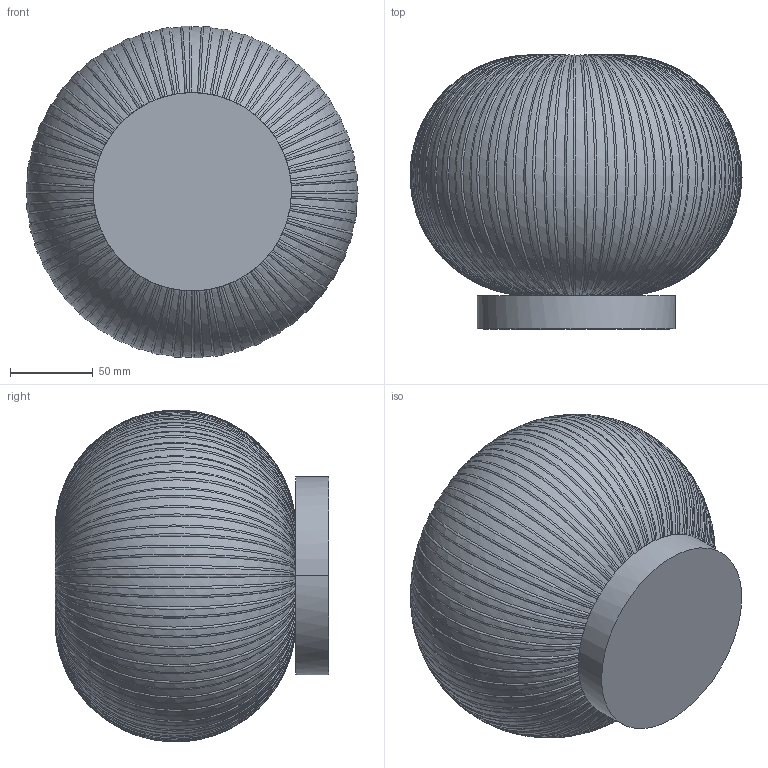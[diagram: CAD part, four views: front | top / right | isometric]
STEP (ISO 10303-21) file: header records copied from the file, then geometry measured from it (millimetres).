
FILE_DESCRIPTION (( 'STEP AP214' ), '1' );
FILE_NAME ('A1353.STEP', '2025-12-17T12:16:53', ( '' ), ( '' ), 'SwSTEP 2.0', 'SolidWorks 2023', '' );
FILE_SCHEMA (( 'AUTOMOTIVE_DESIGN' ));
Length unit declared in the file: millimetre
Products named in the file (3): A1353; Bola; Ar1_4_V02
Assembly tree (2 placements, depth 2):
  A1353
    Ar1_4_V02
    Bola
Bounding box: 200.97 x 165.85 x 200.97 mm (x, y, z)
Volume: 2603693.7 mm3; surface area: 193462.9 mm2
Topology: 2 solids, 3 shells, 258 faces, 625 edges, 415 vertices
Faces by surface type: bspline 256, sphere 2
Entity records: 59035 total; most frequent: CARTESIAN_POINT 55380, ORIENTED_EDGE 1232, EDGE_CURVE 616, VERTEX_POINT 412, B_SPLINE_CURVE_WITH_KNOTS 410, EDGE_LOOP 306, ADVANCED_FACE 258, FACE_OUTER_BOUND 258
